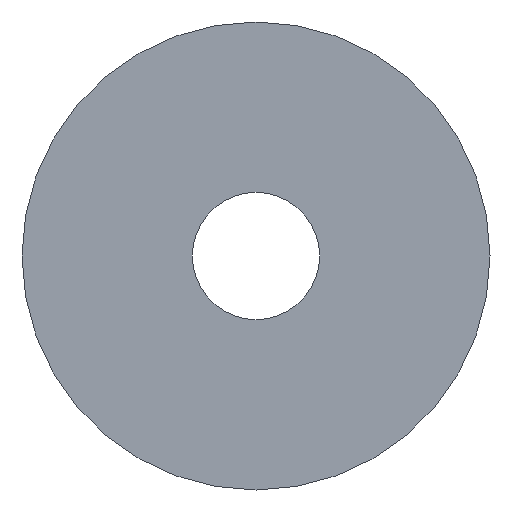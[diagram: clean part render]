
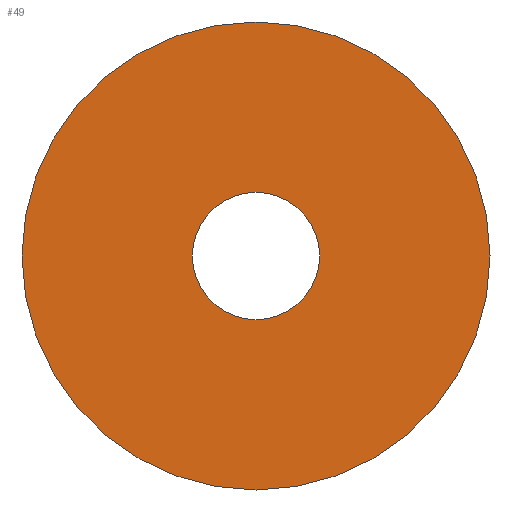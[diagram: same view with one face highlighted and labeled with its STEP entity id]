
A CAD part, front view. The second image highlights one B-rep face of the part: STEP entity #49.
In plain terms, the highlighted planar face has unit normal (0, -1, 0).
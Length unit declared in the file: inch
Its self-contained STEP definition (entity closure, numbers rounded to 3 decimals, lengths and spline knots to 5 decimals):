
#8 = CARTESIAN_POINT ( 'NONE',  ( 0., -0.032, -0.158 ) ) ;
#9 = DIRECTION ( 'NONE',  ( 0., 0., 1. ) ) ;
#10 = DIRECTION ( 'NONE',  ( 0., 1., 0. ) ) ;
#11 = CARTESIAN_POINT ( 'NONE',  ( 0., -0.032, 0. ) ) ;
#12 = AXIS2_PLACEMENT_3D ( 'NONE', #11, #10, #9 ) ;
#13 = CIRCLE ( 'NONE', #12, 0.158 ) ;
#37 = EDGE_CURVE ( 'NONE', #38, #144, #13, .T. ) ;
#38 = VERTEX_POINT ( 'NONE', #8 ) ;
#49 = ADVANCED_FACE ( 'NONE', ( #125, #124 ), #123, .F. ) ;
#50 = EDGE_LOOP ( 'NONE', ( #51, #54 ) ) ;
#51 = ORIENTED_EDGE ( 'NONE', *, *, #52, .F. ) ;
#52 = EDGE_CURVE ( 'NONE', #137, #134, #118, .T. ) ;
#53 = EDGE_LOOP ( 'NONE', ( #55, #56 ) ) ;
#54 = ORIENTED_EDGE ( 'NONE', *, *, #136, .F. ) ;
#55 = ORIENTED_EDGE ( 'NONE', *, *, #37, .T. ) ;
#56 = ORIENTED_EDGE ( 'NONE', *, *, #57, .T. ) ;
#57 = EDGE_CURVE ( 'NONE', #144, #38, #113, .T. ) ;
#69 = CARTESIAN_POINT ( 'NONE',  ( 0., -0.032, -0.581 ) ) ;
#70 = DIRECTION ( 'NONE',  ( 0., 0., 1. ) ) ;
#71 = DIRECTION ( 'NONE',  ( 0., 1., 0. ) ) ;
#72 = CARTESIAN_POINT ( 'NONE',  ( 0., -0.032, 0. ) ) ;
#73 = AXIS2_PLACEMENT_3D ( 'NONE', #72, #71, #70 ) ;
#74 = CIRCLE ( 'NONE', #73, 0.581 ) ;
#75 = CARTESIAN_POINT ( 'NONE',  ( 0., -0.032, 0.581 ) ) ;
#109 = DIRECTION ( 'NONE',  ( 0., 0., 1. ) ) ;
#110 = DIRECTION ( 'NONE',  ( 0., 1., 0. ) ) ;
#111 = CARTESIAN_POINT ( 'NONE',  ( 0., -0.032, 0. ) ) ;
#112 = AXIS2_PLACEMENT_3D ( 'NONE', #111, #110, #109 ) ;
#113 = CIRCLE ( 'NONE', #112, 0.158 ) ;
#114 = DIRECTION ( 'NONE',  ( 0., 0., 1. ) ) ;
#115 = DIRECTION ( 'NONE',  ( 0., 1., 0. ) ) ;
#116 = CARTESIAN_POINT ( 'NONE',  ( 0., -0.032, 0. ) ) ;
#117 = AXIS2_PLACEMENT_3D ( 'NONE', #116, #115, #114 ) ;
#118 = CIRCLE ( 'NONE', #117, 0.581 ) ;
#119 = DIRECTION ( 'NONE',  ( 0., 0., 1. ) ) ;
#120 = DIRECTION ( 'NONE',  ( 0., 1., 0. ) ) ;
#121 = CARTESIAN_POINT ( 'NONE',  ( 0., -0.032, 0. ) ) ;
#122 = AXIS2_PLACEMENT_3D ( 'NONE', #121, #120, #119 ) ;
#123 = PLANE ( 'NONE',  #122 ) ;
#124 = FACE_BOUND ( 'NONE', #53, .T. ) ;
#125 = FACE_OUTER_BOUND ( 'NONE', #50, .T. ) ;
#134 = VERTEX_POINT ( 'NONE', #75 ) ;
#136 = EDGE_CURVE ( 'NONE', #134, #137, #74, .T. ) ;
#137 = VERTEX_POINT ( 'NONE', #69 ) ;
#144 = VERTEX_POINT ( 'NONE', #168 ) ;
#168 = CARTESIAN_POINT ( 'NONE',  ( 0., -0.032, 0.158 ) ) ;
